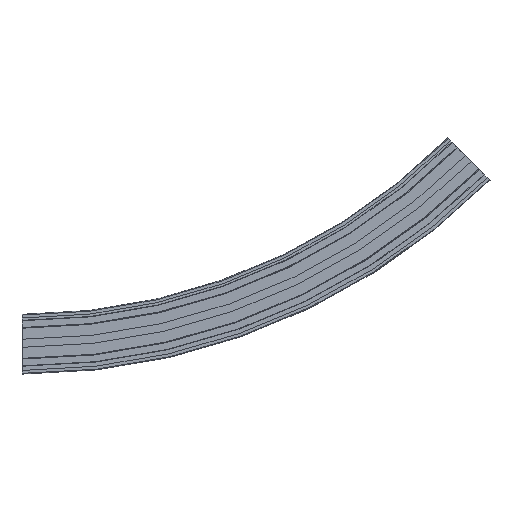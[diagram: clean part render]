
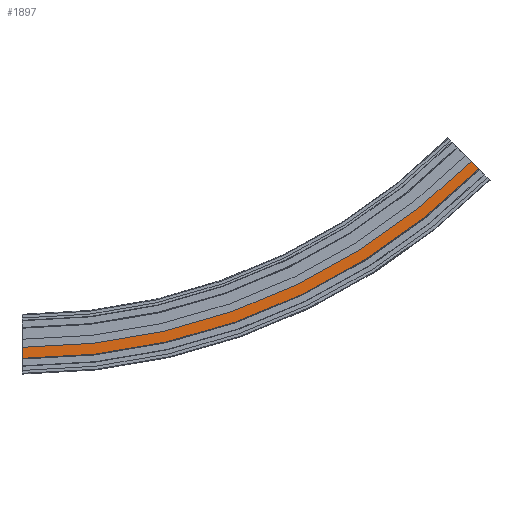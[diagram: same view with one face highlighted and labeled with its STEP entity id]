
A CAD part, front view. The second image highlights one B-rep face of the part: STEP entity #1897.
In plain terms, the highlighted planar face has unit normal (0, -1, 0).
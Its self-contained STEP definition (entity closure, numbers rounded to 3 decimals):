
#1839=CARTESIAN_POINT('',(622.608,-43.0,197.892));
#1840=VERTEX_POINT('',#1839);
#1847=CARTESIAN_POINT('',(0.0,-43.0,-60.));
#1848=VERTEX_POINT('',#1847);
#1849=CARTESIAN_POINT('',(0.,-43.0,820.5));
#1850=DIRECTION('',(0.0,-1.0,0.0));
#1851=DIRECTION('',(-0.707,0.0,0.707));
#1852=AXIS2_PLACEMENT_3D('',#1849,#1850,#1851);
#1853=CIRCLE('',#1852,880.5);
#1854=EDGE_CURVE('',#1848,#1840,#1853,.T.);
#1866=CARTESIAN_POINT('',(0.0,-43.0,-52.5));
#1867=DIRECTION('',(0.0,-1.0,0.0));
#1868=DIRECTION('',(0.0,0.0,-1.0));
#1869=AXIS2_PLACEMENT_3D('',#1866,#1867,#1868);
#1870=PLANE('',#1869);
#1871=CARTESIAN_POINT('',(612.001,-43.0,208.499));
#1872=VERTEX_POINT('',#1871);
#1873=CARTESIAN_POINT('',(622.608,-43.0,197.892));
#1874=DIRECTION('',(-0.707,0.0,0.707));
#1875=VECTOR('',#1874,15.);
#1876=LINE('',#1873,#1875);
#1877=EDGE_CURVE('',#1840,#1872,#1876,.T.);
#1878=ORIENTED_EDGE('',*,*,#1877,.T.);
#1879=CARTESIAN_POINT('',(0.0,-43.0,-45.));
#1880=VERTEX_POINT('',#1879);
#1881=CARTESIAN_POINT('',(0.,-43.0,820.5));
#1882=DIRECTION('',(0.0,-1.0,0.0));
#1883=DIRECTION('',(-0.707,0.0,0.707));
#1884=AXIS2_PLACEMENT_3D('',#1881,#1882,#1883);
#1885=CIRCLE('',#1884,865.5);
#1886=EDGE_CURVE('',#1880,#1872,#1885,.T.);
#1887=ORIENTED_EDGE('',*,*,#1886,.F.);
#1888=CARTESIAN_POINT('',(0.0,-43.0,-45.));
#1889=DIRECTION('',(0.0,0.0,-1.0));
#1890=VECTOR('',#1889,15.0);
#1891=LINE('',#1888,#1890);
#1892=EDGE_CURVE('',#1880,#1848,#1891,.T.);
#1893=ORIENTED_EDGE('',*,*,#1892,.T.);
#1894=ORIENTED_EDGE('',*,*,#1854,.T.);
#1895=EDGE_LOOP('',(#1878,#1887,#1893,#1894));
#1896=FACE_OUTER_BOUND('',#1895,.T.);
#1897=ADVANCED_FACE('',(#1896),#1870,.T.);
